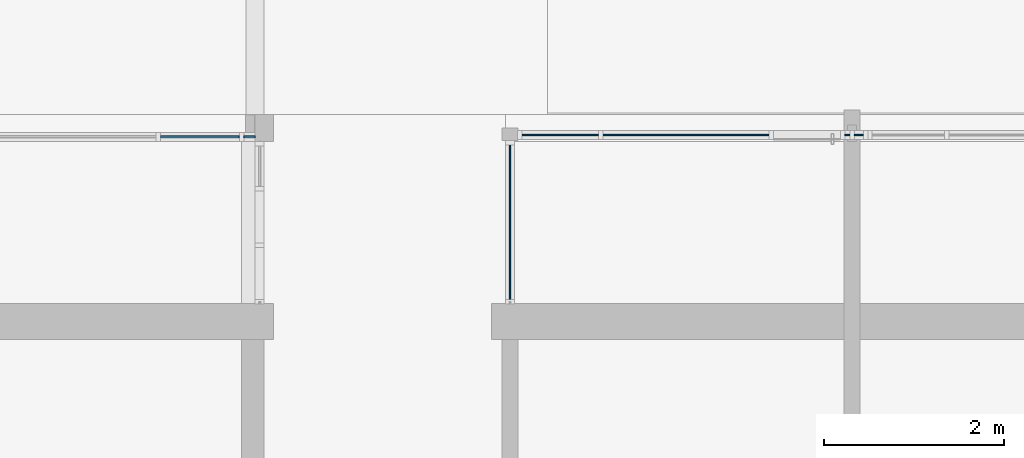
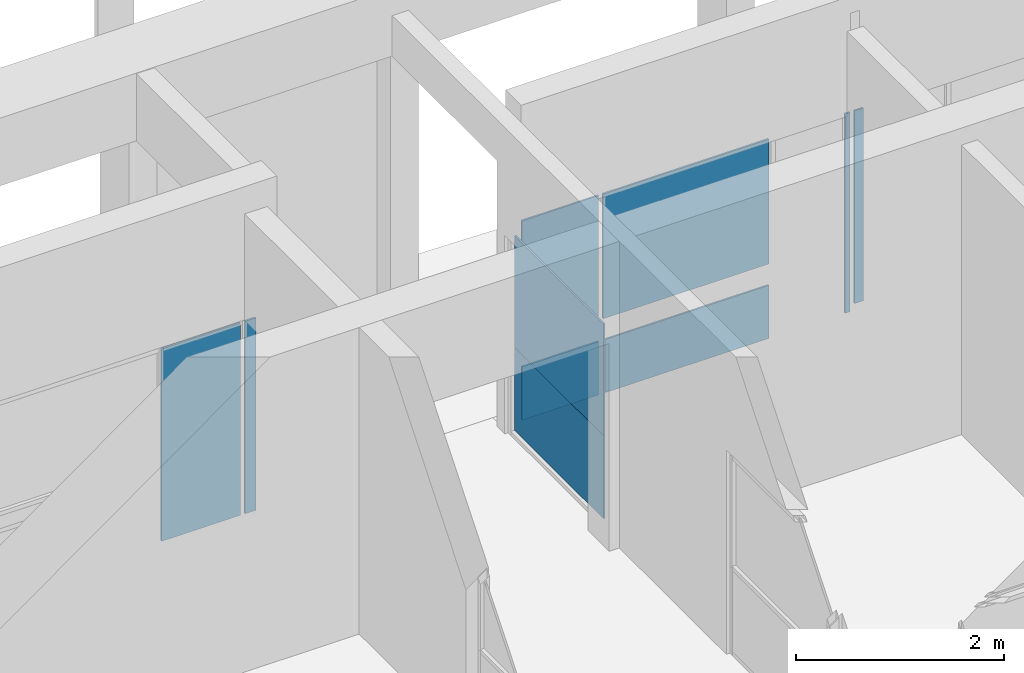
# One storey, part 33 of 117: 10 plates, 3 elements without a shape of their own.
"""IFC4 building model written with IfcOpenShell, lengths in metres."""

from ifc_helpers import new_model, entity, si_unit, converted_unit, derived_unit, direction, frame, origin, place, context, subcontext, project, spatial, indexed_curve, outline, extrude, source, transform, mapped, material, type_object, type_shapes, element, aggregate, save


model = new_model("IFC4")

# Units and contexts
model_context = context("Model", 3, precision=1e-05, world=origin(), true_north=direction((6.123031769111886e-17, 1.0)))
body_context = subcontext(model_context, "Body", "Model", "MODEL_VIEW")
ifc_project = project(units=[si_unit("LENGTHUNIT", "METRE"), si_unit("AREAUNIT", "SQUARE_METRE"), si_unit("VOLUMEUNIT", "CUBIC_METRE"), converted_unit("PLANEANGLEUNIT", "DEGREE", entity("IfcRatioMeasure", 0.017453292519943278), si_unit("PLANEANGLEUNIT", "RADIAN"), dimensions=[0, 0, 0, 0, 0, 0, 0]), si_unit("MASSUNIT", "GRAM", prefix="KILO"), derived_unit("MASSDENSITYUNIT", [(si_unit("MASSUNIT", "GRAM", prefix="KILO"), 1), (si_unit("LENGTHUNIT", "METRE"), -3)]), derived_unit("MOMENTOFINERTIAUNIT", [(si_unit("LENGTHUNIT", "METRE"), 4)]), si_unit("TIMEUNIT", "SECOND"), si_unit("FREQUENCYUNIT", "HERTZ"), si_unit("THERMODYNAMICTEMPERATUREUNIT", "DEGREE_CELSIUS"), derived_unit("THERMALTRANSMITTANCEUNIT", [(si_unit("MASSUNIT", "GRAM", prefix="KILO"), 1), (si_unit("THERMODYNAMICTEMPERATUREUNIT", "KELVIN"), -1), (si_unit("TIMEUNIT", "SECOND"), -3)]), derived_unit("VOLUMETRICFLOWRATEUNIT", [(si_unit("LENGTHUNIT", "METRE"), 3), (si_unit("TIMEUNIT", "SECOND"), -1)]), derived_unit("MASSFLOWRATEUNIT", [(si_unit("MASSUNIT", "GRAM", prefix="KILO"), 1), (si_unit("TIMEUNIT", "SECOND"), -1)]), derived_unit("ROTATIONALFREQUENCYUNIT", [(si_unit("TIMEUNIT", "SECOND"), -1)]), si_unit("ELECTRICCURRENTUNIT", "AMPERE"), si_unit("ELECTRICVOLTAGEUNIT", "VOLT"), si_unit("POWERUNIT", "WATT"), si_unit("FORCEUNIT", "NEWTON", prefix="KILO"), si_unit("ILLUMINANCEUNIT", "LUX"), si_unit("LUMINOUSFLUXUNIT", "LUMEN"), si_unit("LUMINOUSINTENSITYUNIT", "CANDELA"), derived_unit("USERDEFINED", [(si_unit("MASSUNIT", "GRAM", prefix="KILO"), -1), (si_unit("LENGTHUNIT", "METRE"), -2), (si_unit("TIMEUNIT", "SECOND"), 3), (si_unit("LUMINOUSFLUXUNIT", "LUMEN"), 1)]), derived_unit("SOUNDPOWERUNIT", [(si_unit("MASSUNIT", "GRAM", prefix="KILO"), 1), (si_unit("LENGTHUNIT", "METRE"), 2), (si_unit("TIMEUNIT", "SECOND"), -3)]), derived_unit("SOUNDPRESSUREUNIT", [(si_unit("MASSUNIT", "GRAM", prefix="KILO"), 1), (si_unit("LENGTHUNIT", "METRE"), -1), (si_unit("TIMEUNIT", "SECOND"), -2)]), derived_unit("LINEARVELOCITYUNIT", [(si_unit("LENGTHUNIT", "METRE"), 1), (si_unit("TIMEUNIT", "SECOND"), -1)]), si_unit("PRESSUREUNIT", "PASCAL"), derived_unit("USERDEFINED", [(si_unit("LENGTHUNIT", "METRE"), -2), (si_unit("MASSUNIT", "GRAM", prefix="KILO"), 1), (si_unit("TIMEUNIT", "SECOND"), -2)]), derived_unit("LINEARFORCEUNIT", [(si_unit("MASSUNIT", "GRAM", prefix="KILO"), 1), (si_unit("LENGTHUNIT", "METRE"), 1), (si_unit("TIMEUNIT", "SECOND"), -2), (si_unit("LENGTHUNIT", "METRE"), -1)]), derived_unit("PLANARFORCEUNIT", [(si_unit("MASSUNIT", "GRAM", prefix="KILO"), 1), (si_unit("LENGTHUNIT", "METRE"), 1), (si_unit("TIMEUNIT", "SECOND"), -2), (si_unit("LENGTHUNIT", "METRE"), -2)])], contexts=[model_context])

# Site, building, storey
site_placement = place(None, origin())
site = spatial("IfcSite", under=ifc_project, at=site_placement, Name="Superficie", CompositionType="ELEMENT")
building_placement = place(site_placement, origin())
building = spatial("IfcBuilding", under=site, at=building_placement, CompositionType="ELEMENT")
storey_placement = place(building_placement, origin())
storey = spatial("IfcBuildingStorey", under=building, at=storey_placement, Name="Nivel 0", CompositionType="ELEMENT", Elevation=0.0)

# Curtain wall, plates
curtain_wall_type = type_object("IfcCurtainWallType", Name="Muro cortina:Muro cortina - simple", PredefinedType="NOTDEFINED")
curtain_wall_1_placement = place(storey_placement, origin())
curtain_wall_1 = element("IfcCurtainWall", 1, at=curtain_wall_1_placement, inside=storey, type_object=curtain_wall_type, Name="Muro cortina:Muro cortina - simple", ObjectType="Muro cortina:Muro cortina - simple", PredefinedType="NOTDEFINED")
ifc_material = material(Name="Cristal", Category="Vidrio")
plate_type_1 = type_object("IfcPlateType", Name="Panel de sistema:Acristalado", PredefinedType="CURTAIN_PANEL", material=ifc_material)
shared_shape_1 = source(origin(), body_context, "Body", "SweptSolid", [
    extrude(outline(indexed_curve([(-0.01, -0.8563094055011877), (0.01, -0.8563094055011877), (0.01, 0.8563094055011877), (-0.01, 0.8563094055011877), (-0.01, -0.8563094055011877)], self_intersect=False)), frame((0.0, 0.0, 0.0), z_axis=(0.0, 0.0, 1.0), x_axis=(0.0, 1.0, 0.0)), (0.0, 0.0, 1.0), 0.9750000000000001),
])
type_shapes(plate_type_1, [shared_shape_1])
plate_1_placement = place(curtain_wall_1_placement, frame((-15.413200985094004, 11.672138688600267, 0.045000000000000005), z_axis=(0.0, 0.0, 1.0), x_axis=(0.0, -1.0, 0.0)))
plate_1 = element("IfcPlate", 2, at=plate_1_placement, type_object=plate_type_1, material=ifc_material, Name="Panel de sistema:Acristalado", ObjectType="Panel de sistema:Acristalado", PredefinedType="CURTAIN_PANEL", context=body_context, shape_type="MappedRepresentation", body=[
    mapped(shared_shape_1, transform((0.0, 0.0, 0.0), scale=1.0)),
])
plate_type_2 = type_object("IfcPlateType", Name="Panel de sistema:Acristalado", PredefinedType="CURTAIN_PANEL", material=ifc_material)
shared_shape_2 = source(origin(), body_context, "Body", "SweptSolid", [
    extrude(outline(indexed_curve([(-0.01, -0.8563094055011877), (0.01, -0.8563094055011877), (0.01, 0.8563094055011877), (-0.01, 0.8563094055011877), (-0.01, -0.8563094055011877)], self_intersect=False)), frame((0.0, 0.0, 0.0), z_axis=(0.0, 0.0, 1.0), x_axis=(0.0, 1.0, 0.0)), (0.0, 0.0, 1.0), 1.3099999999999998),
])
type_shapes(plate_type_2, [shared_shape_2])
plate_2_placement = place(curtain_wall_1_placement, frame((-15.413200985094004, 11.672138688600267, 1.0200000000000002), z_axis=(0.0, 0.0, 1.0), x_axis=(0.0, -1.0, 0.0)))
plate_2 = element("IfcPlate", 3, at=plate_2_placement, type_object=plate_type_2, material=ifc_material, Name="Panel de sistema:Acristalado", ObjectType="Panel de sistema:Acristalado", PredefinedType="CURTAIN_PANEL", context=body_context, shape_type="MappedRepresentation", body=[
    mapped(shared_shape_2, transform((0.0, 0.0, 0.0), scale=1.0)),
])
aggregate(curtain_wall_1, [plate_1, plate_2])

curtain_wall_2_placement = place(storey_placement, origin())
curtain_wall_2 = element("IfcCurtainWall", 4, at=curtain_wall_2_placement, inside=storey, type_object=curtain_wall_type, Name="Muro cortina:Muro cortina - simple", ObjectType="Muro cortina:Muro cortina - simple", PredefinedType="NOTDEFINED")
plate_type_3 = type_object("IfcPlateType", Name="Panel de sistema:Acristalado", PredefinedType="CURTAIN_PANEL", material=ifc_material)
shared_shape_3 = source(origin(), body_context, "Body", "SweptSolid", [
    extrude(outline(indexed_curve([(-1.0074999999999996, -0.06249999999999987), (-0.22249999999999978, -0.06249999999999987), (-0.0225000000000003, -0.06249999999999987), (1.2525000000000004, -0.06249999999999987), (1.2525000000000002, 0.06249999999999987), (-0.02250000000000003, 0.06249999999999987), (-0.22250000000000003, 0.06249999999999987), (-1.0074999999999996, 0.06249999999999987), (-1.0074999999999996, -0.06249999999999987)], self_intersect=False)), frame((0.0, -0.01, 1.0074999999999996), z_axis=(0.0, 1.0, 0.0), x_axis=(0.0, 0.0, 1.0)), (0.0, 0.0, 1.0), 0.02),
])
type_shapes(plate_type_3, [shared_shape_3])
plate_3_placement = place(curtain_wall_2_placement, frame((-18.305700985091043, 12.620829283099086, 0.04499999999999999), z_axis=(0.0, 0.0, 1.0), x_axis=(-1.0, 0.0, 0.0)))
plate_3 = element("IfcPlate", 5, at=plate_3_placement, type_object=plate_type_3, material=ifc_material, Name="Panel de sistema:Acristalado", ObjectType="Panel de sistema:Acristalado", PredefinedType="CURTAIN_PANEL", context=body_context, shape_type="MappedRepresentation", body=[
    mapped(shared_shape_3, transform((0.0, 0.0, 0.0), scale=1.0)),
])
plate_type_4 = type_object("IfcPlateType", Name="Panel de sistema:Acristalado", PredefinedType="CURTAIN_PANEL", material=ifc_material)
shared_shape_4 = source(origin(), body_context, "Body", "SweptSolid", [
    extrude(outline(indexed_curve([(-1.0074999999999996, -0.437499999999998), (-0.22250000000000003, -0.437499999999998), (-0.02250000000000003, -0.437499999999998), (1.2525000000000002, -0.437499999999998), (1.2525000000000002, 0.437499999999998), (-0.02250000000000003, 0.437499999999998), (-0.22250000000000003, 0.437499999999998), (-1.0074999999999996, 0.437499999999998), (-1.0074999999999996, -0.437499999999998)], self_intersect=False)), frame((0.0, -0.009999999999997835, 1.0074999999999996), z_axis=(0.0, 1.0, 0.0), x_axis=(0.0, 0.0, 1.0)), (0.0, 0.0, 1.0), 0.02),
])
type_shapes(plate_type_4, [shared_shape_4])
plate_4_placement = place(curtain_wall_2_placement, frame((-18.855700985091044, 12.62082928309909, 0.04499999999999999), z_axis=(0.0, 0.0, 1.0), x_axis=(-1.0, 0.0, 0.0)))
plate_4 = element("IfcPlate", 6, at=plate_4_placement, type_object=plate_type_4, material=ifc_material, Name="Panel de sistema:Acristalado", ObjectType="Panel de sistema:Acristalado", PredefinedType="CURTAIN_PANEL", context=body_context, shape_type="MappedRepresentation", body=[
    mapped(shared_shape_4, transform((0.0, 0.0, 0.0), scale=1.0)),
])
aggregate(curtain_wall_2, [plate_3, plate_4])

curtain_wall_3_placement = place(storey_placement, origin())
curtain_wall_3 = element("IfcCurtainWall", 7, at=curtain_wall_3_placement, inside=storey, type_object=curtain_wall_type, Name="Muro cortina:Muro cortina - simple", ObjectType="Muro cortina:Muro cortina - simple", PredefinedType="NOTDEFINED")
plate_type_5 = type_object("IfcPlateType", Name="Panel de sistema:Acristalado", PredefinedType="CURTAIN_PANEL", material=ifc_material)
shared_shape_5 = source(origin(), body_context, "Body", "SweptSolid", [
    extrude(outline(indexed_curve([(-0.01, -0.027499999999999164), (0.01, -0.027499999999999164), (0.01, 0.027499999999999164), (-0.01, 0.027499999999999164), (-0.01, -0.027499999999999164)], self_intersect=False)), frame((0.0, 0.0, 0.0), z_axis=(0.0, 0.0, 1.0), x_axis=(0.0, 1.0, 0.0)), (0.0, 0.0, 1.0), 2.34),
])
type_shapes(plate_type_5, [shared_shape_5])
plate_5_placement = place(curtain_wall_3_placement, frame((-11.664888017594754, 12.640829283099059, 0.05), z_axis=(0.0, 0.0, 1.0), x_axis=(-1.0, 0.0, 0.0)))
plate_5 = element("IfcPlate", 8, at=plate_5_placement, type_object=plate_type_5, material=ifc_material, Name="Panel de sistema:Acristalado", ObjectType="Panel de sistema:Acristalado", PredefinedType="CURTAIN_PANEL", context=body_context, shape_type="MappedRepresentation", body=[
    mapped(shared_shape_5, transform((0.0, 0.0, 0.0), scale=1.0)),
])
plate_type_6 = type_object("IfcPlateType", Name="Panel de sistema:Acristalado", PredefinedType="CURTAIN_PANEL", material=ifc_material)
shared_shape_6 = source(origin(), body_context, "Body", "SweptSolid", [
    extrude(outline(indexed_curve([(-0.01, -0.9200000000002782), (0.01, -0.9200000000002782), (0.01, 0.9200000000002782), (-0.01, 0.9200000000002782), (-0.01, -0.9200000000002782)], self_intersect=False)), frame((0.0, 0.0, 0.0), z_axis=(0.0, 0.0, 1.0), x_axis=(0.0, 1.0, 0.0)), (0.0, 0.0, 1.0), 0.625),
])
type_shapes(plate_type_6, [shared_shape_6])
plate_6_placement = place(curtain_wall_3_placement, frame((-13.457388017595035, 12.640829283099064, 0.05), z_axis=(0.0, 0.0, 1.0), x_axis=(-1.0, 0.0, 0.0)))
plate_6 = element("IfcPlate", 9, at=plate_6_placement, type_object=plate_type_6, material=ifc_material, Name="Panel de sistema:Acristalado", ObjectType="Panel de sistema:Acristalado", PredefinedType="CURTAIN_PANEL", context=body_context, shape_type="MappedRepresentation", body=[
    mapped(shared_shape_6, transform((0.0, 0.0, 0.0), scale=1.0)),
])
plate_type_7 = type_object("IfcPlateType", Name="Panel de sistema:Acristalado", PredefinedType="CURTAIN_PANEL", material=ifc_material)
shared_shape_7 = source(origin(), body_context, "Body", "SweptSolid", [
    extrude(outline(indexed_curve([(-0.01, -0.9200000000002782), (0.01, -0.9200000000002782), (0.01, 0.9200000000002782), (-0.01, 0.9200000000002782), (-0.01, -0.9200000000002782)], self_intersect=False)), frame((0.0, 0.0, 0.0), z_axis=(0.0, 0.0, 1.0), x_axis=(0.0, 1.0, 0.0)), (0.0, 0.0, 1.0), 1.4649999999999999),
])
type_shapes(plate_type_7, [shared_shape_7])
plate_7_placement = place(curtain_wall_3_placement, frame((-13.457388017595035, 12.640829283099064, 0.9249999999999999), z_axis=(0.0, 0.0, 1.0), x_axis=(-1.0, 0.0, 0.0)))
plate_7 = element("IfcPlate", 10, at=plate_7_placement, type_object=plate_type_7, material=ifc_material, Name="Panel de sistema:Acristalado", ObjectType="Panel de sistema:Acristalado", PredefinedType="CURTAIN_PANEL", context=body_context, shape_type="MappedRepresentation", body=[
    mapped(shared_shape_7, transform((0.0, 0.0, 0.0), scale=1.0)),
])
plate_type_8 = type_object("IfcPlateType", Name="Panel de sistema:Acristalado", PredefinedType="CURTAIN_PANEL", material=ifc_material)
shared_shape_8 = source(origin(), body_context, "Body", "SweptSolid", [
    extrude(outline(indexed_curve([(-0.01, -0.42499999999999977), (0.01, -0.42499999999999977), (0.01, 0.42499999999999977), (-0.01, 0.42499999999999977), (-0.01, -0.42499999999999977)], self_intersect=False)), frame((0.0, 0.0, 0.0), z_axis=(0.0, 0.0, 1.0), x_axis=(0.0, 1.0, 0.0)), (0.0, 0.0, 1.0), 0.625),
])
type_shapes(plate_type_8, [shared_shape_8])
plate_8_placement = place(curtain_wall_3_placement, frame((-14.852388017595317, 12.64082928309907, 0.05), z_axis=(0.0, 0.0, 1.0), x_axis=(-1.0, 0.0, 0.0)))
plate_8 = element("IfcPlate", 11, at=plate_8_placement, type_object=plate_type_8, material=ifc_material, Name="Panel de sistema:Acristalado", ObjectType="Panel de sistema:Acristalado", PredefinedType="CURTAIN_PANEL", context=body_context, shape_type="MappedRepresentation", body=[
    mapped(shared_shape_8, transform((0.0, 0.0, 0.0), scale=1.0)),
])
plate_type_9 = type_object("IfcPlateType", Name="Panel de sistema:Acristalado", PredefinedType="CURTAIN_PANEL", material=ifc_material)
shared_shape_9 = source(origin(), body_context, "Body", "SweptSolid", [
    extrude(outline(indexed_curve([(-0.01, -0.42499999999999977), (0.01, -0.42499999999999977), (0.01, 0.42499999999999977), (-0.01, 0.42499999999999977), (-0.01, -0.42499999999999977)], self_intersect=False)), frame((0.0, 0.0, 0.0), z_axis=(0.0, 0.0, 1.0), x_axis=(0.0, 1.0, 0.0)), (0.0, 0.0, 1.0), 1.4649999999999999),
])
type_shapes(plate_type_9, [shared_shape_9])
plate_9_placement = place(curtain_wall_3_placement, frame((-14.852388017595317, 12.64082928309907, 0.9249999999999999), z_axis=(0.0, 0.0, 1.0), x_axis=(-1.0, 0.0, 0.0)))
plate_9 = element("IfcPlate", 12, at=plate_9_placement, type_object=plate_type_9, material=ifc_material, Name="Panel de sistema:Acristalado", ObjectType="Panel de sistema:Acristalado", PredefinedType="CURTAIN_PANEL", context=body_context, shape_type="MappedRepresentation", body=[
    mapped(shared_shape_9, transform((0.0, 0.0, 0.0), scale=1.0)),
])
plate_type_10 = type_object("IfcPlateType", Name="Panel de sistema:Acristalado", PredefinedType="CURTAIN_PANEL", material=ifc_material)
shared_shape_10 = source(origin(), body_context, "Body", "SweptSolid", [
    extrude(outline(indexed_curve([(-0.01, -0.05), (0.01, -0.05), (0.01, 0.05), (-0.01, 0.05), (-0.01, -0.05)], self_intersect=False)), frame((0.0, 0.0, 0.0), z_axis=(0.0, 0.0, 1.0), x_axis=(0.0, 1.0, 0.0)), (0.0, 0.0, 1.0), 2.2640268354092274),
])
type_shapes(plate_type_10, [shared_shape_10])
plate_10_placement = place(curtain_wall_3_placement, frame((-11.537388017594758, 12.640829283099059, 0.12597316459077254), z_axis=(0.0, 0.0, 1.0), x_axis=(-1.0, 0.0, 0.0)))
plate_10 = element("IfcPlate", 13, at=plate_10_placement, type_object=plate_type_10, material=ifc_material, Name="Panel de sistema:Acristalado", ObjectType="Panel de sistema:Acristalado", PredefinedType="CURTAIN_PANEL", context=body_context, shape_type="MappedRepresentation", body=[
    mapped(shared_shape_10, transform((0.0, 0.0, 0.0), scale=1.0)),
])
aggregate(curtain_wall_3, [plate_5, plate_6, plate_7, plate_8, plate_9, plate_10])

save(model, "model.ifc")
